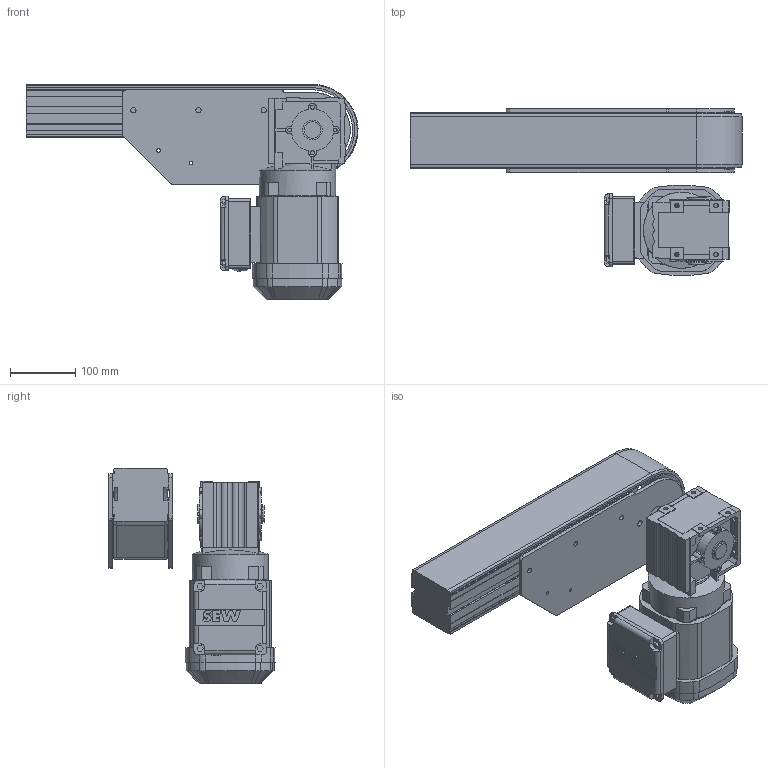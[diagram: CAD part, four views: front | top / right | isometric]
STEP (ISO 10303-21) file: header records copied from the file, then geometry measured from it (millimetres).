
FILE_DESCRIPTION((''),'2;1');
FILE_NAME('C:\Vault Klient\Projekt\Koncept konstruktion\Serie 830 Drivenhet\830-365H.stp','2010-10-28T08:58:54',('Mathias'),(''),'Autodesk Inventor 2011','Autodesk Inventor 2011','');
FILE_SCHEMA(('AUTOMOTIVE_DESIGN { 1 0 10303 214 1 1 1 1 }'));
Length unit declared in the file: millimetre
Products named in the file (1): 830-365H
Bounding box: 509.96 x 255.64 x 330.5 mm (x, y, z)
Volume: 7809631.7 mm3; surface area: 634534.9 mm2
Topology: 2 solids, 5 shells, 607 faces, 1698 edges, 1112 vertices
Faces by surface type: plane 382, cylinder 195, bspline 16, cone 12, sphere 2
Full cylindrical faces by diameter (mm): 5 x4, 6 x9, 6.6 x8, 8 x6, 10 x4, 20 x1, 25 x1, 26 x2, 28 x1, 30 x2, 117 x1
Entity records: 20266 total; most frequent: CARTESIAN_POINT 3854, ORIENTED_EDGE 3286, DIRECTION 3232, EDGE_CURVE 1643, VECTOR 1146, LINE 1146, VERTEX_POINT 1101, AXIS2_PLACEMENT_3D 1043
